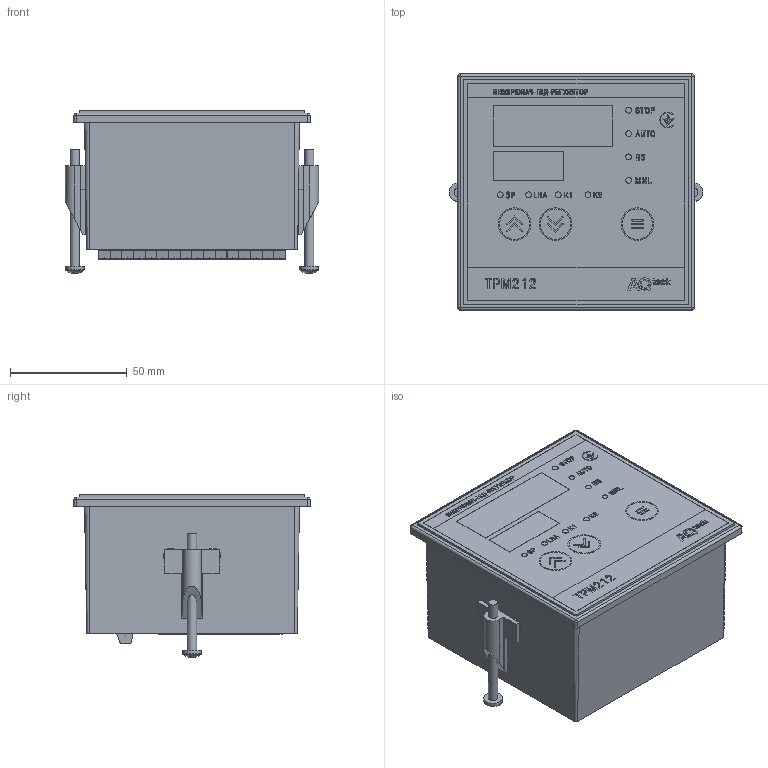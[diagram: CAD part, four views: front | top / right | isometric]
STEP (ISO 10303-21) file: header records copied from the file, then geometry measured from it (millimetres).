
FILE_DESCRIPTION (( 'STEP AP214' ), '1' );
FILE_NAME ('ﾒﾐﾌ212-ﾙ1.PP [U03].STEP', '2025-01-22T12:45:33', ( '' ), ( '' ), 'SwSTEP 2.0', 'SolidWorks 2019', '' );
FILE_SCHEMA (( 'AUTOMOTIVE_DESIGN' ));
Length unit declared in the file: millimetre
Products named in the file (8): AQ_TRM212_001F01M; M4 x 0.7 x 40 Type I Cross Recessed PHMS; Êð³ïëåííÿ ï³ä âèíò Ì4; 2EDGKR-5.08; Óù³ëüíþâà÷ (Ù1); ﾒﾐﾌ212-ﾙ1.PP [U03]; Êîðïóñ ÒÐÌ212-Ù1; 2EDGKR-5.08-16
Assembly tree (24 placements, depth 3):
  ﾒﾐﾌ212-ﾙ1.PP [U03]
    Êîðïóñ ÒÐÌ212-Ù1
    AQ_TRM212_001F01M
    Óù³ëüíþâà÷ (Ù1)
    2EDGKR-5.08-16
      2EDGKR-5.08  x16
    M4 x 0.7 x 40 Type I Cross Recessed PHMS  x2
    Êð³ïëåííÿ ï³ä âèíò Ì4  x2
Bounding box: 108.28 x 101 x 69.69 mm (x, y, z)
Volume: 105246.9 mm3; surface area: 125803.7 mm2
Topology: 286 solids, 286 shells, 4865 faces, 12633 edges, 8374 vertices
Faces by surface type: plane 3366, bspline 1208, cylinder 279, sphere 6, cone 4, torus 2
Full cylindrical faces by diameter (mm): 1.274 x2, 2.5 x16, 3.268 x4, 4 x2, 8 x2, 13 x6, 14 x3
Entity records: 178507 total; most frequent: CARTESIAN_POINT 37915, ORIENTED_EDGE 21458, DIRECTION 14438, EDGE_CURVE 10729, LINE 8054, VECTOR 8054, VERTEX_POINT 7165, EDGE_LOOP 4444
